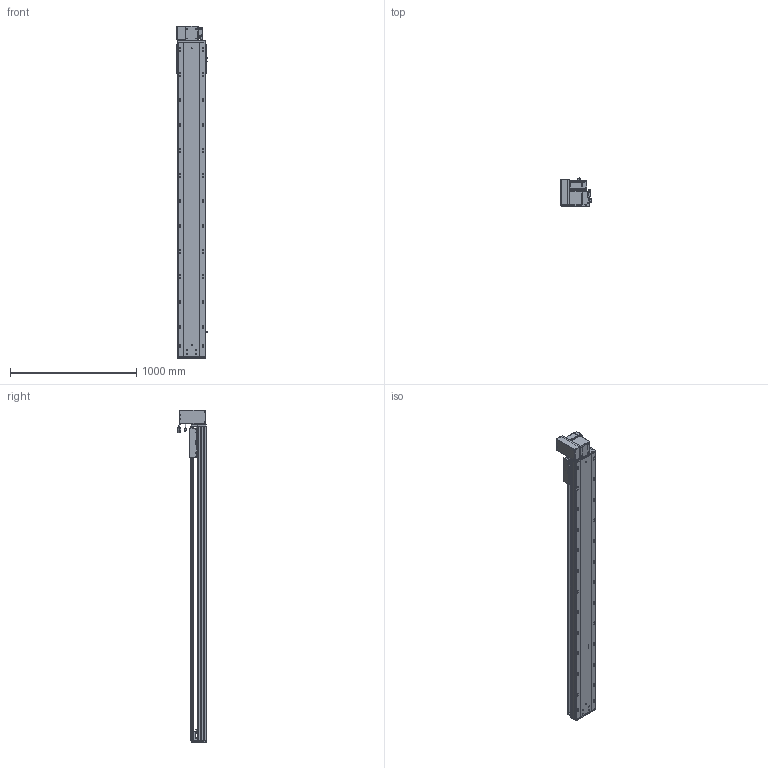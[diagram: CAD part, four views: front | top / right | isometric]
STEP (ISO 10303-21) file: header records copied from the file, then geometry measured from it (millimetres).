
FILE_DESCRIPTION (( 'STEP AP203' ), '1' );
FILE_NAME ('RY220-T-300-UL.SLDASM_2150.step', '2022-07-25T08:35:10', ( '' ), ( '' ), 'SwSTEP 2.0', 'SolidWorks 2016', '' );
FILE_SCHEMA (( 'CONFIG_CONTROL_DESIGN' ));
Length unit declared in the file: millimetre
Products named in the file (14): 覜茼ん672; RY220翋肮祭謫釱; RY220-T菁釱-300_2150; RY220-T-湍謫欶(鍼踢); RY220-T-300-奻裔啣_2150; 怢湛750W_ECMA-CX0807ES; RY220-T-300-UL.SLDASM_2150; RY220圉猾敕々湍臏賑輸; 110A-T-肮祭謫釱傷裔; RY220-俋离672覜茼んえ; RY220-T-蛌殏萇儂假蚾啣(750W); RY220翋肮祭謫裔啣; RY220-同步轮副支撑座6304×2; 滅袉蝶18-15
Assembly tree (18 placements, depth 2):
  RY220-T-300-UL.SLDASM_2150
    RY220-T菁釱-300_2150
    RY220翋肮祭謫釱
    覜茼ん672  x3
    RY220圉猾敕々湍臏賑輸
    RY220-T-300-奻裔啣_2150
    RY220-俋离672覜茼んえ
    滅袉蝶18-15  x3
    RY220翋肮祭謫裔啣  x2
    110A-T-肮祭謫釱傷裔
    怢湛750W_ECMA-CX0807ES
    RY220-T-湍謫欶(鍼踢)
    RY220-T-蛌殏萇儂假蚾啣(750W)
    RY220-同步轮副支撑座6304×2
Bounding box: 239.7 x 231.74 x 2630.5 mm (x, y, z)
Volume: 19702618.9 mm3; surface area: 6006176.4 mm2
Topology: 19 solids, 19 shells, 2860 faces, 7903 edges, 4972 vertices
Faces by surface type: cylinder 1384, plane 1069, cone 325, bspline 56, sphere 16, torus 10
Entity records: 95267 total; most frequent: CARTESIAN_POINT 26975, ORIENTED_EDGE 14138, DIRECTION 13548, EDGE_CURVE 7069, AXIS2_PLACEMENT_3D 4854, VERTEX_POINT 4596, VECTOR 3840, LINE 3840
